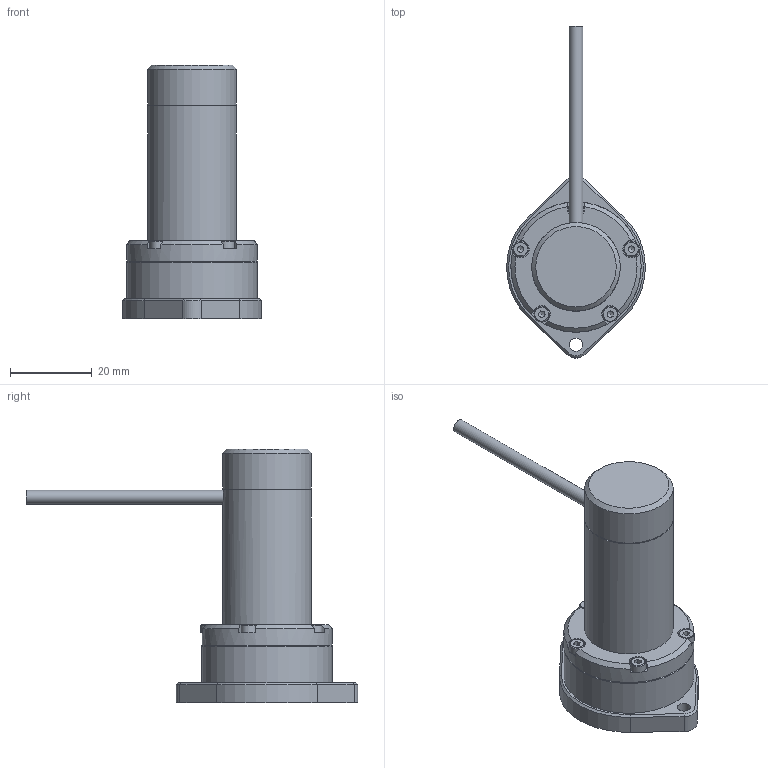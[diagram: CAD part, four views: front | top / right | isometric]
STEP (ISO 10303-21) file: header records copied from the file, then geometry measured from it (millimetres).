
FILE_DESCRIPTION (( 'STEP AP203' ), '1' );
FILE_NAME ('MD450M REV 1.STEP', '2020-06-30T08:30:26', ( '' ), ( '' ), 'SwSTEP 2.0', 'SolidWorks 2016', '' );
FILE_SCHEMA (( 'CONFIG_CONTROL_DESIGN' ));
Length unit declared in the file: millimetre
Products named in the file (8): P-1095; P-1183; P-0401_B18.3.1M - 2 x 0.4 x 10 Hex SHCS -- 10CHX; P-1182; E20D-IE_Standard PEEK PLUS SS; MD450M REV 1; P-0762; P-1093
Assembly tree (11 placements, depth 3):
  MD450M REV 1
    E20D-IE_Standard PEEK PLUS SS
      P-1093
      P-1095
      P-0762
    P-1182
    P-1183
    P-0401_B18.3.1M - 2 x 0.4 x 10 Hex SHCS -- 10CHX  x5
Bounding box: 34 x 81.22 x 62.2 mm (x, y, z)
Volume: 14214.5 mm3; surface area: 15971.1 mm2
Topology: 10 solids, 10 shells, 254 faces, 608 edges, 388 vertices
Faces by surface type: plane 137, cylinder 73, cone 35, torus 8, bspline 1
Full cylindrical faces by diameter (mm): 0.6 x3, 1.2 x3, 1.6 x5, 2 x5, 2.1 x10, 3.2 x2, 3.36 x1, 3.8 x5, 6 x2, 8 x2, 18.7 x1, 20.1 x1, 20.2 x1, 21.7 x2, 22.2 x1, 25 x1, 31.9 x2
Entity records: 6091 total; most frequent: CARTESIAN_POINT 1187, DIRECTION 873, ORIENTED_EDGE 710, AXIS2_PLACEMENT_3D 362, EDGE_CURVE 355, EDGE_LOOP 275, VERTEX_POINT 260, FACE_OUTER_BOUND 211
